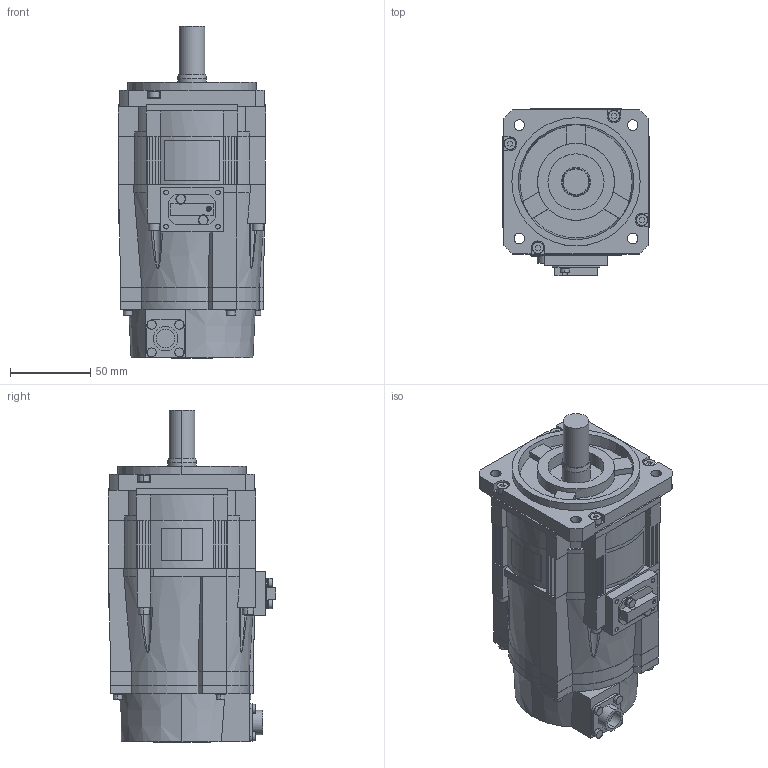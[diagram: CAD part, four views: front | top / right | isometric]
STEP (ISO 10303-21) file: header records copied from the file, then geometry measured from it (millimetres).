
FILE_DESCRIPTION (( 'STEP AP203' ), '1' );
FILE_NAME ('sgm7g_03a6a2c.STEP', '2016-11-12T04:49:27', ( '匠エンジニアリング山之内' ), ( 'TAKUMI-Engniaring' ), 'SwSTEP 2.0', 'SolidWorks 2006303', '' );
FILE_SCHEMA (( 'CONFIG_CONTROL_DESIGN' ));
Length unit declared in the file: millimetre
Products named in the file (1): sgm7g_03a6a2c
Bounding box: 92 x 104.5 x 207.1 mm (x, y, z)
Volume: 1101256.6 mm3; surface area: 92691.7 mm2
Topology: 1 solids, 1 shells, 630 faces, 1575 edges, 1017 vertices
Faces by surface type: plane 433, cylinder 172, cone 21, bspline 4
Entity records: 19815 total; most frequent: CARTESIAN_POINT 4408, DIRECTION 3191, ORIENTED_EDGE 3150, EDGE_CURVE 1575, VECTOR 1101, LINE 1101, AXIS2_PLACEMENT_3D 1045, VERTEX_POINT 1017
